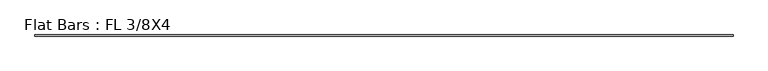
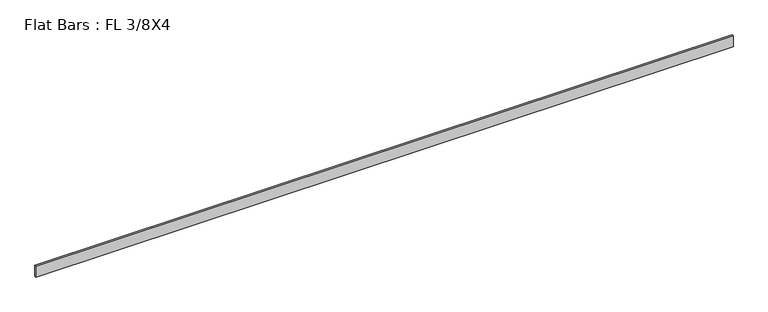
"""IFC4 building model written with IfcOpenShell, lengths in millimetres: member geometry, Flat Bars : FL 3/8X4."""

from ifc_helpers import new_model, si_unit, frame, origin, place, context, project, spatial, polyline, outline, extrude, source, transform, mapped, element, save


def flat_bars_fl_3_8x4_8cd429a4(model_context):
    return source(origin(), model_context, "Body", "SweptSolid", [
        extrude(outline(polyline([(-3179.9857662, -4.7625), (-3179.9857662, 4.7625), (2894.2044526, 4.7625), (2894.2044526, -4.7625), (-3179.9857662, -4.7625)])), frame((0.0, 0.0, -50.8), z_axis=(0.0, 0.0, 1.0), x_axis=(1.0, 0.0, 0.0)), (0.0, 0.0, 1.0), 101.6),
    ])


if __name__ == "__main__":
    model = new_model("IFC4")
    model_context = context("Model", 3, world=origin())
    ifc_project = project(units=[si_unit("LENGTHUNIT", "METRE", prefix="MILLI")], contexts=[model_context])
    site = spatial("IfcSite", under=ifc_project)
    building = spatial("IfcBuilding", under=site)
    placement = place(None, origin())
    flat_bars_fl_3_8x4_shape = flat_bars_fl_3_8x4_8cd429a4(model_context)
    element("IfcMember", 1, ObjectType="Flat Bars : FL 3/8X4", at=placement, inside=building, context=model_context, shape_type="MappedRepresentation", body=[
        mapped(flat_bars_fl_3_8x4_shape, transform((0.0, 0.0, 0.0), x_axis=(1.0, 0.0, 0.0), y_axis=(0.0, 1.0, 0.0), z_axis=(0.0, 0.0, 1.0))),
    ])
    save(model, "model.ifc")
